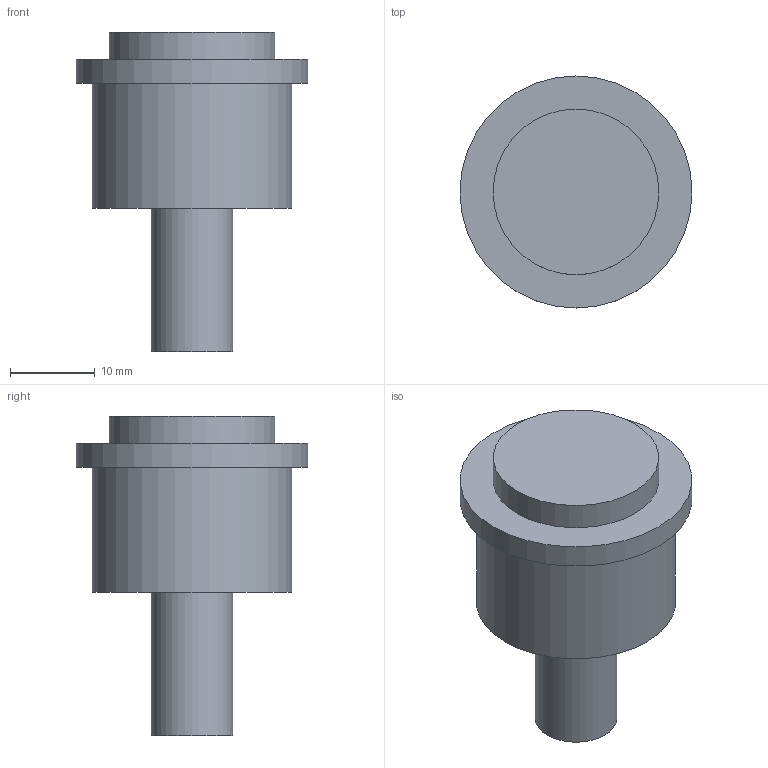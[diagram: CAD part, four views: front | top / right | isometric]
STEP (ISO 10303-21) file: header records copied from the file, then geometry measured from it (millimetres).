
FILE_DESCRIPTION(('FreeCAD Model'),'2;1');
FILE_NAME('/home/bluelambda/Documents/Arcade/meca/SANWA_osbn_24.step', '2016-04-02T20:14:47',('Author'),(''), 'Open CASCADE STEP processor 6.9','FreeCAD','Unknown');
FILE_SCHEMA(('AUTOMOTIVE_DESIGN { 1 0 10303 214 1 1 1 1 }'));
Length unit declared in the file: millimetre
Products named in the file (1): SANWA_osbn_24
Bounding box: 27.3 x 27.3 x 37.6 mm (x, y, z)
Volume: 10193.8 mm3; surface area: 3201.8 mm2
Topology: 1 solids, 1 shells, 9 faces, 12 edges, 8 vertices
Faces by surface type: plane 5, cylinder 4
Full cylindrical faces by diameter (mm): 9.6 x1, 19.5 x1, 23.5 x1, 27.3 x1
Entity records: 374 total; most frequent: DIRECTION 63, CARTESIAN_POINT 60, ORIENTED_EDGE 24, PCURVE 24, DEFINITIONAL_REPRESENTATION 24, LINE 20, VECTOR 20, AXIS2_PLACEMENT_3D 18
